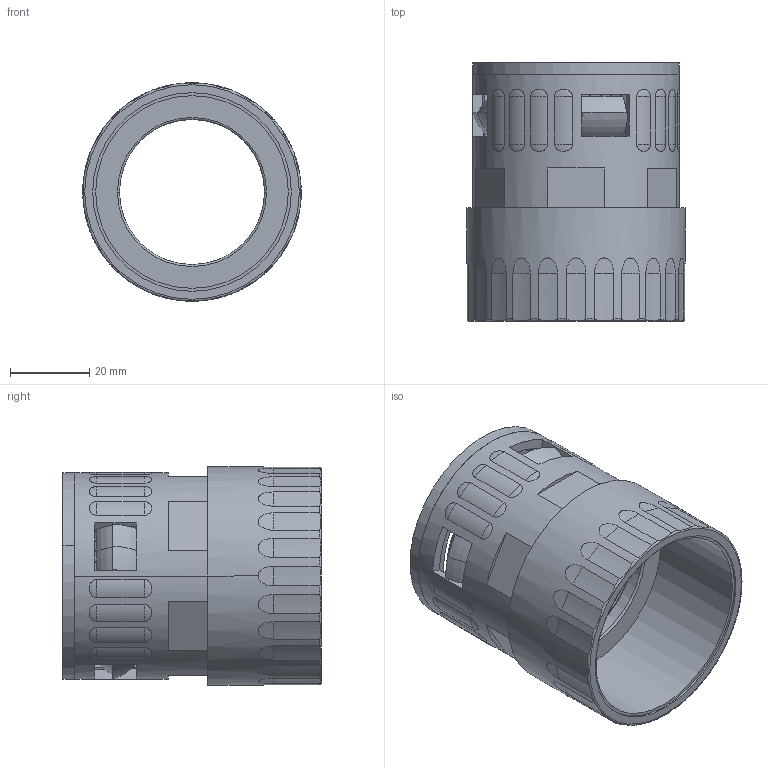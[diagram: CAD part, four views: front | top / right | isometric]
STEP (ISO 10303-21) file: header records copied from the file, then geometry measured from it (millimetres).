
FILE_DESCRIPTION (( 'STEP AP203' ), '1' );
FILE_NAME ('WQG2-M50-AD42.5.STEP', '2020-03-13T02:25:19', ( '' ), ( '' ), 'SwSTEP 2.0', 'SolidWorks 2016', '' );
FILE_SCHEMA (( 'CONFIG_CONTROL_DESIGN' ));
Length unit declared in the file: millimetre
Products named in the file (4): NSK-AD42.5; GFD-AD42.5; WQG2-M50-AD42.5; WQG2-M50-AD42.5-01
Assembly tree (3 placements, depth 2):
  WQG2-M50-AD42.5
    WQG2-M50-AD42.5-01
    GFD-AD42.5
    NSK-AD42.5
Bounding box: 55 x 65 x 55 mm (x, y, z)
Volume: 39358.5 mm3; surface area: 35755.1 mm2
Topology: 3 solids, 3 shells, 414 faces, 1198 edges, 761 vertices
Faces by surface type: plane 153, cylinder 121, sphere 56, cone 49, torus 35
Entity records: 15348 total; most frequent: CARTESIAN_POINT 4543, DIRECTION 2238, ORIENTED_EDGE 2172, EDGE_CURVE 1086, AXIS2_PLACEMENT_3D 880, VERTEX_POINT 705, VECTOR 478, LINE 478
